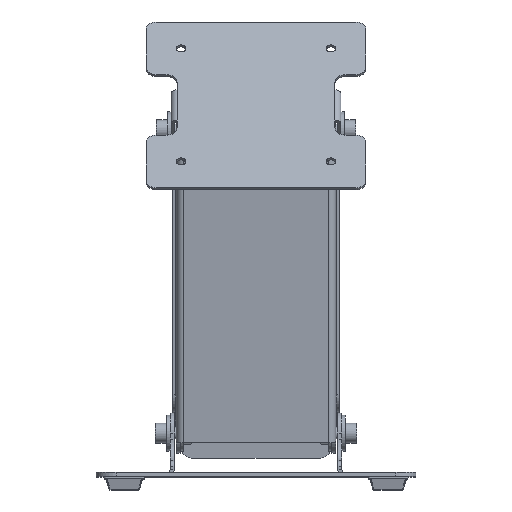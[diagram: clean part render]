
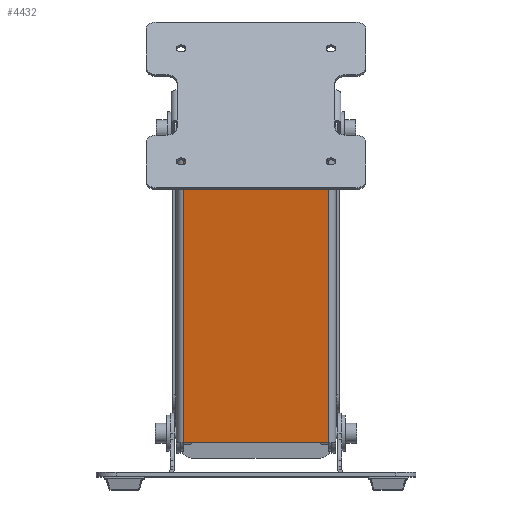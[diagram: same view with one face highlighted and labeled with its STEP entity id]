
A CAD part, top view. The second image highlights one B-rep face of the part: STEP entity #4432.
In plain terms, the highlighted planar face has unit normal (0, -0.132, 0.991).
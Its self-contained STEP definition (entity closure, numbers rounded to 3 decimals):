
#138 = EDGE_CURVE ( 'NONE', #8535, #13084, #9404, .T. ) ;
#1322 = ORIENTED_EDGE ( 'NONE', *, *, #138, .T. ) ;
#2048 = DIRECTION ( 'NONE',  ( 0., 0.132, -0.991 ) ) ;
#2518 = EDGE_CURVE ( 'NONE', #8535, #16679, #18354, .T. ) ;
#2613 = FACE_OUTER_BOUND ( 'NONE', #7681, .T. ) ;
#3043 = DIRECTION ( 'NONE',  ( 0., 0.991, 0.132 ) ) ;
#3148 = ORIENTED_EDGE ( 'NONE', *, *, #8273, .T. ) ;
#3451 = CARTESIAN_POINT ( 'NONE',  ( 0., 95.992, -38.553 ) ) ;
#3882 = EDGE_CURVE ( 'NONE', #14528, #13084, #7695, .T. ) ;
#4161 = DIRECTION ( 'NONE',  ( 1., 0., 0. ) ) ;
#4356 = CARTESIAN_POINT ( 'NONE',  ( 36.4, 17.183, -49.017 ) ) ;
#4432 = ADVANCED_FACE ( 'NONE', ( #2613 ), #14439, .F. ) ;
#5002 = DIRECTION ( 'NONE',  ( -1., 0., 0. ) ) ;
#5727 = VECTOR ( 'NONE', #3043, 1000. ) ;
#6865 = CARTESIAN_POINT ( 'NONE',  ( 36.4, 17.183, -49.017 ) ) ;
#7681 = EDGE_LOOP ( 'NONE', ( #3148, #9497, #1322, #16054 ) ) ;
#7693 = DIRECTION ( 'NONE',  ( 0., -0.991, -0.132 ) ) ;
#7695 = LINE ( 'NONE', #17769, #10749 ) ;
#7735 = DIRECTION ( 'NONE',  ( 0., 0.991, 0.132 ) ) ;
#8273 = EDGE_CURVE ( 'NONE', #14528, #16679, #14325, .T. ) ;
#8535 = VERTEX_POINT ( 'NONE', #18161 ) ;
#9404 = LINE ( 'NONE', #16273, #17298 ) ;
#9497 = ORIENTED_EDGE ( 'NONE', *, *, #2518, .F. ) ;
#9759 = VECTOR ( 'NONE', #4161, 1000. ) ;
#10749 = VECTOR ( 'NONE', #5002, 1000. ) ;
#10892 = AXIS2_PLACEMENT_3D ( 'NONE', #3451, #2048, #7735 ) ;
#11544 = CARTESIAN_POINT ( 'NONE',  ( 36.4, 174.8, -28.089 ) ) ;
#13084 = VERTEX_POINT ( 'NONE', #17510 ) ;
#14325 = LINE ( 'NONE', #4356, #5727 ) ;
#14439 = PLANE ( 'NONE',  #10892 ) ;
#14528 = VERTEX_POINT ( 'NONE', #6865 ) ;
#15544 = CARTESIAN_POINT ( 'NONE',  ( 39.9, 174.8, -28.089 ) ) ;
#16054 = ORIENTED_EDGE ( 'NONE', *, *, #3882, .F. ) ;
#16273 = CARTESIAN_POINT ( 'NONE',  ( -36.4, 174.8, -28.089 ) ) ;
#16679 = VERTEX_POINT ( 'NONE', #11544 ) ;
#17298 = VECTOR ( 'NONE', #7693, 1000. ) ;
#17510 = CARTESIAN_POINT ( 'NONE',  ( -36.4, 17.183, -49.017 ) ) ;
#17769 = CARTESIAN_POINT ( 'NONE',  ( 39.9, 17.183, -49.017 ) ) ;
#18161 = CARTESIAN_POINT ( 'NONE',  ( -36.4, 174.8, -28.089 ) ) ;
#18354 = LINE ( 'NONE', #15544, #9759 ) ;
